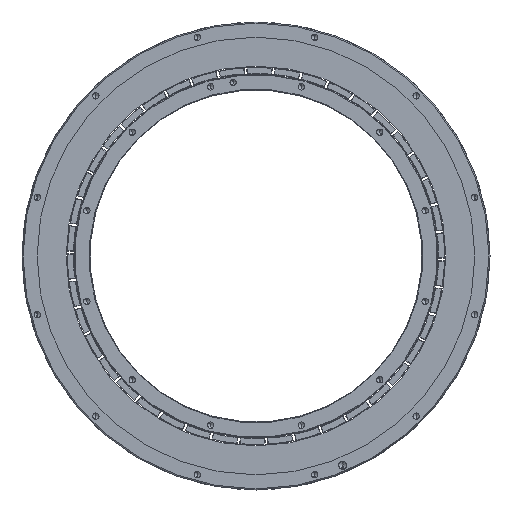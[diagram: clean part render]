
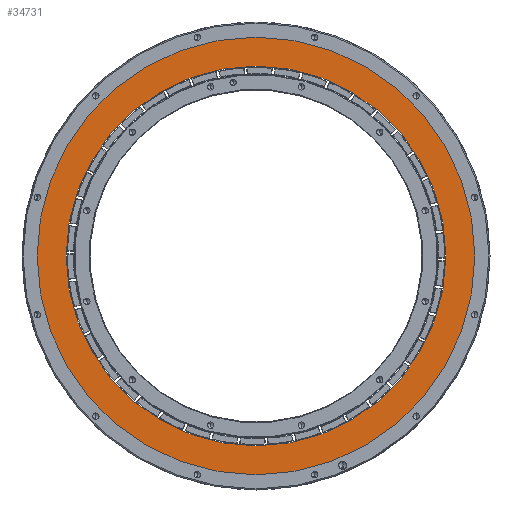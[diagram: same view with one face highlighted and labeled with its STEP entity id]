
A CAD part, front view. The second image highlights one B-rep face of the part: STEP entity #34731.
In plain terms, the highlighted planar face has unit normal (0, -1, 0).
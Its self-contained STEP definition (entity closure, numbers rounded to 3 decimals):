
#2843 = ORIENTED_EDGE ( 'NONE', *, *, #10933, .F. ) ;
#2953 = VERTEX_POINT ( 'NONE', #32036 ) ;
#3615 = DIRECTION ( 'NONE',  ( 0., 1., 0. ) ) ;
#4511 = CARTESIAN_POINT ( 'NONE',  ( 0., -44., 0. ) ) ;
#4619 = PLANE ( 'NONE',  #34513 ) ;
#6165 = VERTEX_POINT ( 'NONE', #31622 ) ;
#6877 = CIRCLE ( 'NONE', #21412, 144.945 ) ;
#8955 = CARTESIAN_POINT ( 'NONE',  ( 0., -44., 0. ) ) ;
#9991 = DIRECTION ( 'NONE',  ( 0., 0., 1. ) ) ;
#10446 = ORIENTED_EDGE ( 'NONE', *, *, #33577, .T. ) ;
#10933 = EDGE_CURVE ( 'NONE', #26900, #6165, #16743, .T. ) ;
#11599 = DIRECTION ( 'NONE',  ( 0., 0., 1. ) ) ;
#12150 = ORIENTED_EDGE ( 'NONE', *, *, #34019, .F. ) ;
#12463 = AXIS2_PLACEMENT_3D ( 'NONE', #14225, #3615, #14937 ) ;
#13621 = CARTESIAN_POINT ( 'NONE',  ( 0., -44., 0. ) ) ;
#14225 = CARTESIAN_POINT ( 'NONE',  ( 0., -44., 0. ) ) ;
#14802 = DIRECTION ( 'NONE',  ( 0., 0., 1. ) ) ;
#14937 = DIRECTION ( 'NONE',  ( 0., 0., 1. ) ) ;
#15513 = EDGE_CURVE ( 'NONE', #27755, #2953, #19826, .T. ) ;
#16497 = AXIS2_PLACEMENT_3D ( 'NONE', #8955, #30315, #14802 ) ;
#16743 = CIRCLE ( 'NONE', #30273, 144.945 ) ;
#18104 = CARTESIAN_POINT ( 'NONE',  ( 0., -44., 144.945 ) ) ;
#19502 = CARTESIAN_POINT ( 'NONE',  ( 0., -44., 0. ) ) ;
#19826 = CIRCLE ( 'NONE', #16497, 125.77 ) ;
#20668 = CARTESIAN_POINT ( 'NONE',  ( 0., -44., -125.77 ) ) ;
#21412 = AXIS2_PLACEMENT_3D ( 'NONE', #19502, #32778, #11599 ) ;
#22538 = EDGE_LOOP ( 'NONE', ( #31478, #10446 ) ) ;
#23267 = FACE_OUTER_BOUND ( 'NONE', #34056, .T. ) ;
#24155 = DIRECTION ( 'NONE',  ( 0., 1., 0. ) ) ;
#24690 = DIRECTION ( 'NONE',  ( 0., 0., 1. ) ) ;
#26900 = VERTEX_POINT ( 'NONE', #18104 ) ;
#27755 = VERTEX_POINT ( 'NONE', #20668 ) ;
#28780 = CIRCLE ( 'NONE', #12463, 125.77 ) ;
#30273 = AXIS2_PLACEMENT_3D ( 'NONE', #4511, #34189, #9991 ) ;
#30315 = DIRECTION ( 'NONE',  ( 0., 1., 0. ) ) ;
#31478 = ORIENTED_EDGE ( 'NONE', *, *, #15513, .T. ) ;
#31622 = CARTESIAN_POINT ( 'NONE',  ( 0., -44., -144.945 ) ) ;
#32036 = CARTESIAN_POINT ( 'NONE',  ( 0., -44., 125.77 ) ) ;
#32778 = DIRECTION ( 'NONE',  ( 0., 1., 0. ) ) ;
#33577 = EDGE_CURVE ( 'NONE', #2953, #27755, #28780, .T. ) ;
#34019 = EDGE_CURVE ( 'NONE', #6165, #26900, #6877, .T. ) ;
#34056 = EDGE_LOOP ( 'NONE', ( #12150, #2843 ) ) ;
#34112 = FACE_BOUND ( 'NONE', #22538, .T. ) ;
#34189 = DIRECTION ( 'NONE',  ( 0., 1., 0. ) ) ;
#34513 = AXIS2_PLACEMENT_3D ( 'NONE', #13621, #24155, #24690 ) ;
#34731 = ADVANCED_FACE ( 'NONE', ( #23267, #34112 ), #4619, .F. ) ;
